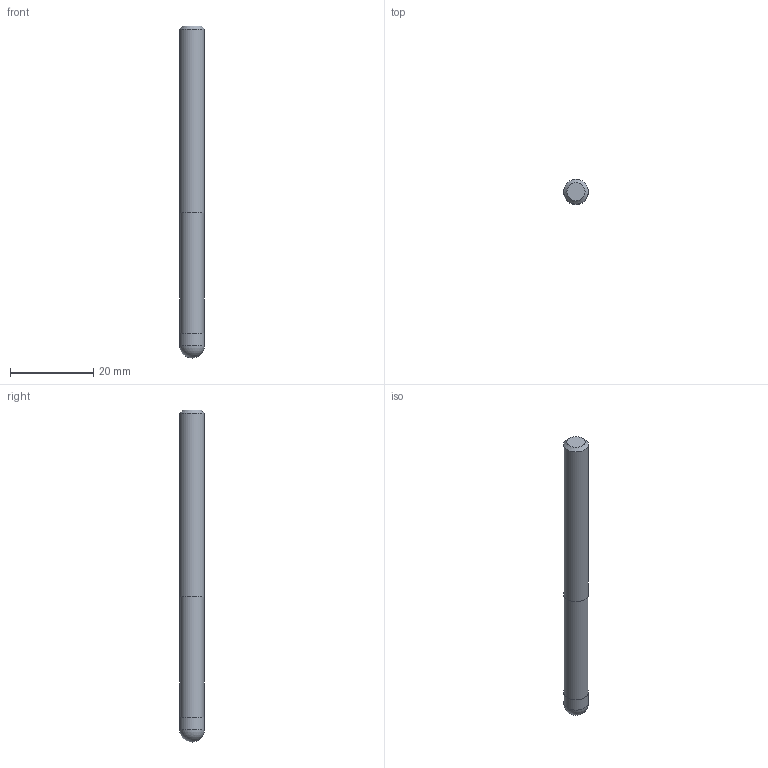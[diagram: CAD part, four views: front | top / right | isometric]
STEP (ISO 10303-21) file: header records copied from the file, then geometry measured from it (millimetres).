
FILE_DESCRIPTION((''),'2;1');
FILE_NAME('C:\Users\nsx150\AppData\Local\Temp\Mastercam 2021\3SYKECWX22\TEMP.step','2021-04-22T10:06:00',(''),(''),'STEP Write','Mastercam 2021 ... CNC Software, Inc.','');
FILE_SCHEMA(('AUTOMOTIVE_DESIGN'));
Length unit declared in the file: millimetre
Products named in the file (1): None
Bounding box: 6 x 6 x 80 mm (x, y, z)
Volume: 2174.4 mm3; surface area: 1564.9 mm2
Topology: 2 solids, 2 shells, 9 faces, 13 edges, 8 vertices
Faces by surface type: plane 4, cylinder 3, sphere 1, cone 1
Full cylindrical faces by diameter (mm): 5.8 x1, 6 x2
Entity records: 211 total; most frequent: DIRECTION 36, CARTESIAN_POINT 25, AXIS2_PLACEMENT_3D 18, ORIENTED_EDGE 14, EDGE_LOOP 14, STYLED_ITEM 12, ADVANCED_FACE 9, FACE_BOUND 8
